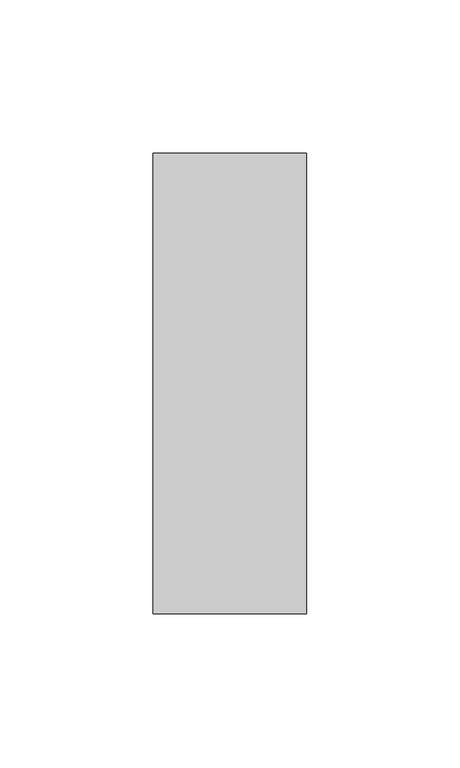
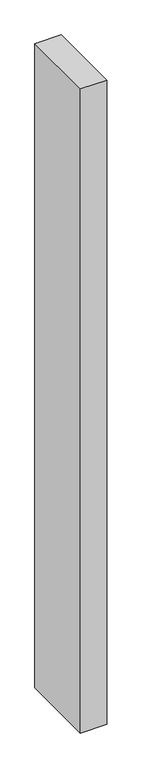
"""IFC4 building model written with IfcOpenShell, lengths in millimetres: member geometry, Прямоугольный импост : 50 x 150 мм."""

import ifcopenshell
import ifcopenshell.guid

model = None  # the IFC model being written
_history = None  # IfcOwnerHistory: only IFC2X3 demands one
_inside = {}  # id of a spatial element -> (the spatial element, [elements in it])
_under = {}  # id of a project, library or spatial element -> (it, [spatial elements below it])
_declared = {}  # id of a project -> (the project, [libraries it declares])
_typed = {}  # id of a type object -> (the type object, [elements of that type])
_made_of = {}  # id of a material, layer set ... -> (it, [elements and type objects made of it])


def new_model(schema):
    """Start an empty IFC model of exactly this schema.

    Asked for "IFC4X3", IfcOpenShell would pick the latest addendum, in which some entities
    have other attributes; the version numbers below select the first issue.
    IFC2X3 requires an IfcOwnerHistory on every rooted entity: one is made here for all.
    """
    global model, _history
    if schema == "IFC4X3":
        model = ifcopenshell.file(schema_version=(4, 3, 0, 0))
    else:
        model = ifcopenshell.file(schema=schema)
    _inside.clear()
    _under.clear()
    _declared.clear()
    _typed.clear()
    _made_of.clear()
    _history = None
    if model.schema == "IFC2X3":
        org = make("IfcOrganization", Name="unknown")
        user = make(
            "IfcPersonAndOrganization",
            ThePerson=make("IfcPerson", FamilyName="unknown"),
            TheOrganization=org,
        )
        app = make(
            "IfcApplication",
            ApplicationDeveloper=org,
            Version="unknown",
            ApplicationFullName="unknown",
            ApplicationIdentifier="unknown",
        )
        _history = make(
            "IfcOwnerHistory",
            OwningUser=user,
            OwningApplication=app,
            ChangeAction="ADDED",
            CreationDate=0,
        )
    return model


def make(cls, **values):
    """One entity of the class cls with the attributes given. An attribute that is None is left unset."""
    return model.create_entity(
        cls, **{name: value for name, value in values.items() if value is not None}
    )


def rooted(cls, **values):
    """An entity with a GlobalId (a new one), such as an element, a storey or a relation."""
    return make(cls, GlobalId=ifcopenshell.guid.new(), OwnerHistory=_history, **values)


def si_unit(unit_type, name, prefix=None):
    """IfcSIUnit, for example si_unit("LENGTHUNIT", "METRE", prefix="MILLI")."""
    return make("IfcSIUnit", UnitType=unit_type, Prefix=prefix, Name=name)


def assignment(units):
    """IfcUnitAssignment: the units of a project."""
    return None if units is None else make("IfcUnitAssignment", Units=units)


def point(xyz):
    """IfcCartesianPoint."""
    return None if xyz is None else make("IfcCartesianPoint", Coordinates=xyz)


def direction(xyz):
    """IfcDirection."""
    return None if xyz is None else make("IfcDirection", DirectionRatios=xyz)


def frame(location, z_axis=None, x_axis=None):
    """IfcAxis2Placement3D, a coordinate frame: its origin and axes. An axis left out is left unset."""
    return make(
        "IfcAxis2Placement3D",
        Location=point(location),
        Axis=direction(z_axis),
        RefDirection=direction(x_axis),
    )


def origin():
    """The frame at (0, 0, 0) with its axes left unset."""
    return frame((0.0, 0.0, 0.0))


def place(relative_to, where):
    """IfcLocalPlacement: puts the frame where relative to a parent placement (None: the world)."""
    return make(
        "IfcLocalPlacement", PlacementRelTo=relative_to, RelativePlacement=where
    )


def context(
    kind, dimensions, precision=None, world=None, true_north=None, identifier=None
):
    """IfcGeometricRepresentationContext, for example the 3D "Model" context."""
    return make(
        "IfcGeometricRepresentationContext",
        ContextIdentifier=identifier,
        ContextType=kind,
        CoordinateSpaceDimension=dimensions,
        Precision=precision,
        WorldCoordinateSystem=world,
        TrueNorth=true_north,
    )


def project(units=None, contexts=None):
    """IfcProject with its units and contexts."""
    return rooted(
        "IfcProject",
        Name="project",
        RepresentationContexts=contexts,
        UnitsInContext=assignment(units),
    )


def spatial(cls, under=None, at=None, **own):
    """A site, building, storey or space (cls), placed at a placement, below another one or the project."""
    s = rooted(cls, ObjectPlacement=at, **own)
    if under is not None:
        _under.setdefault(under.id(), (under, []))[1].append(s)
    return s


def polyline(points):
    """IfcPolyline through the points."""
    return make("IfcPolyline", Points=[point(p) for p in points])


def outline(outer, holes=None, kind="AREA"):
    """IfcArbitraryClosedProfileDef: a profile drawn as a closed curve; with holes, ...WithVoids."""
    if holes is None:
        return make("IfcArbitraryClosedProfileDef", ProfileType=kind, OuterCurve=outer)
    return make(
        "IfcArbitraryProfileDefWithVoids",
        ProfileType=kind,
        OuterCurve=outer,
        InnerCurves=holes,
    )


def extrude(swept, where, along, depth):
    """IfcExtrudedAreaSolid: the profile swept, set in the frame where, extruded along a direction by depth."""
    return make(
        "IfcExtrudedAreaSolid",
        SweptArea=swept,
        Position=where,
        ExtrudedDirection=direction(along),
        Depth=depth,
    )


def shape(context_of_items, identifier, shape_type, items):
    """IfcShapeRepresentation: the items that make up one representation, for example the "Body"."""
    return make(
        "IfcShapeRepresentation",
        ContextOfItems=context_of_items,
        RepresentationIdentifier=identifier,
        RepresentationType=shape_type,
        Items=items,
    )


def source(mapping_origin, context_of_items, identifier, shape_type, items):
    """IfcRepresentationMap: a shape defined once, which mapped items show again and again."""
    return make(
        "IfcRepresentationMap",
        MappingOrigin=mapping_origin,
        MappedRepresentation=shape(context_of_items, identifier, shape_type, items),
    )


def transform(
    local_origin,
    x_axis=None,
    y_axis=None,
    z_axis=None,
    scale=None,
    scale2=None,
    scale3=None,
    uniform=True,
):
    """IfcCartesianTransformationOperator3D, or its non-uniform kind. x_axis, y_axis, z_axis: its Axis1, 2, 3."""
    if uniform:
        return make(
            "IfcCartesianTransformationOperator3D",
            Axis1=direction(x_axis),
            Axis2=direction(y_axis),
            LocalOrigin=point(local_origin),
            Scale=scale,
            Axis3=direction(z_axis),
        )
    return make(
        "IfcCartesianTransformationOperator3DnonUniform",
        Axis1=direction(x_axis),
        Axis2=direction(y_axis),
        LocalOrigin=point(local_origin),
        Scale=scale,
        Axis3=direction(z_axis),
        Scale2=scale2,
        Scale3=scale3,
    )


def mapped(mapping_source, mapping_target):
    """IfcMappedItem: shows the shape of a source again, moved by a transform."""
    return make(
        "IfcMappedItem", MappingSource=mapping_source, MappingTarget=mapping_target
    )


def made_of(thing, what):
    """Note that an element or type object is made of a material, layer set ...; save() writes the relation."""
    if what is not None:
        _made_of.setdefault(what.id(), (what, []))[1].append(thing)
    return thing


def element(
    cls,
    number,
    at=None,
    inside=None,
    cuts=None,
    type_object=None,
    material=None,
    context=None,
    identifier="Body",
    shape_type=None,
    held_by="IfcProductDefinitionShape",
    body=None,
    shapes=None,
    **own,
):
    """One element of the class cls, such as IfcWall. Its Tag is "e" and its number.

    at: its placement. inside: the storey or other place that contains it. cuts: it is an
    opening in that element (IfcRelVoidsElement). A single representation is given by context,
    identifier, shape_type and body (its items); several are given by shapes. held_by: the class
    of the entity that holds the representations. save() writes the other relations.
    """
    e = rooted(cls, Tag="e%d" % number, ObjectPlacement=at, **own)
    if body is not None:
        shapes = [shape(context, identifier, shape_type, body)]
    if shapes is not None:
        e.Representation = make(held_by, Representations=shapes)
    if inside is not None:
        _inside.setdefault(inside.id(), (inside, []))[1].append(e)
    if cuts is not None:
        rooted(
            "IfcRelVoidsElement", RelatingBuildingElement=cuts, RelatedOpeningElement=e
        )
    if type_object is not None:
        _typed.setdefault(type_object.id(), (type_object, []))[1].append(e)
    return made_of(e, material)


def aggregate(whole, parts):
    """IfcRelAggregates: a whole, such as a stair, and the parts it consists of."""
    return rooted("IfcRelAggregates", RelatingObject=whole, RelatedObjects=parts)


def save(model, path):
    """Write the relations noted so far, then the file.

    IfcRelAggregates (storeys below a building ...), IfcRelContainedInSpatialStructure (elements
    in a storey), IfcRelDefinesByType, IfcRelAssociatesMaterial and IfcRelDeclares: one each for
    every whole, place, type object, material and project.
    """
    for whole, parts in _under.values():
        aggregate(whole, parts)
    for where, things in _inside.values():
        rooted(
            "IfcRelContainedInSpatialStructure",
            RelatedElements=things,
            RelatingStructure=where,
        )
    for kind, things in _typed.values():
        rooted("IfcRelDefinesByType", RelatedObjects=things, RelatingType=kind)
    for what, things in _made_of.values():
        rooted("IfcRelAssociatesMaterial", RelatedObjects=things, RelatingMaterial=what)
    for by, libraries in _declared.values():
        rooted("IfcRelDeclares", RelatingContext=by, RelatedDefinitions=libraries)
    model.write(path)


def member_21cc07c4(model_context):
    return source(origin(), model_context, "Body", "SweptSolid", [
        extrude(outline(polyline([(25.0, 75.0), (25.0, -75.0), (-25.0, -75.0), (-25.0, 75.0), (25.0, 75.0)])), frame((0.0, 0.0, -1296.083915), z_axis=(0.0, 0.0, 1.0), x_axis=(1.0, 0.0, 0.0)), (0.0, 0.0, 1.0), 1296.083915),
    ])


if __name__ == "__main__":
    model = new_model("IFC4")
    model_context = context("Model", 3, world=origin())
    ifc_project = project(units=[si_unit("LENGTHUNIT", "METRE", prefix="MILLI")], contexts=[model_context])
    site = spatial("IfcSite", under=ifc_project)
    building = spatial("IfcBuilding", under=site)
    placement = place(None, origin())
    member_shape = member_21cc07c4(model_context)
    element("IfcMember", 1, ObjectType="Прямоугольный импост : 50 x 150 мм", at=placement, inside=building, context=model_context, shape_type="MappedRepresentation", body=[
        mapped(member_shape, transform((0.0, 0.0, 0.0), x_axis=(1.0, 0.0, 0.0), y_axis=(0.0, 1.0, 0.0), z_axis=(0.0, 0.0, 1.0))),
    ])
    save(model, "model.ifc")
